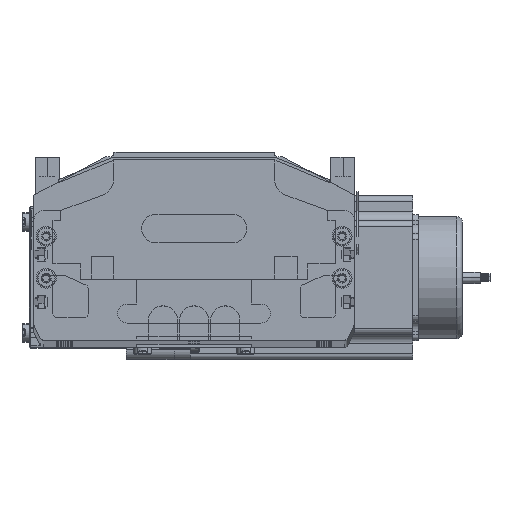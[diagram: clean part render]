
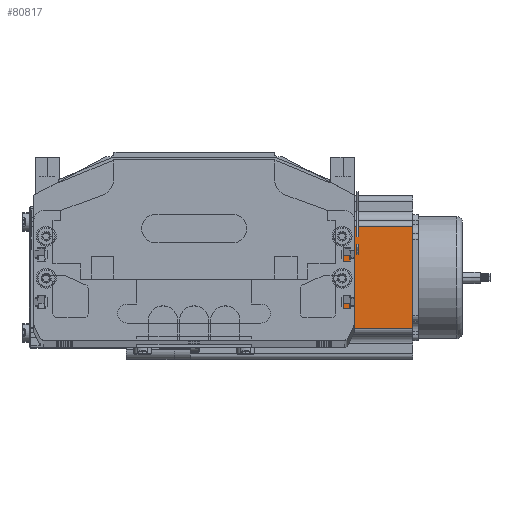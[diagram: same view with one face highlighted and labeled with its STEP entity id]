
A CAD part, top view. The second image highlights one B-rep face of the part: STEP entity #80817.
In plain terms, the highlighted planar face has unit normal (0, 0, 1) as drawn and (0, -1, 0) by its records, which use the part's own axes.
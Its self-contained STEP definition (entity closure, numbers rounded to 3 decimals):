
#73033 = DIRECTION ( 'NONE',  ( 1., 0., 0. ) ) ;
#73035 = VECTOR ( 'NONE', #73033, 1000. ) ;
#73116 = CARTESIAN_POINT ( 'NONE',  ( 0., 0., 0. ) ) ;
#73118 = LINE ( 'NONE', #73116, #73035 ) ;
#80282 = EDGE_CURVE ( 'NONE', #80709, #80710, #73118, .T. ) ;
#80511 = EDGE_LOOP ( 'NONE', ( #80819, #80821, #80626, #80688 ) ) ;
#80626 = ORIENTED_EDGE ( 'NONE', *, *, #80816, .F. ) ;
#80627 = EDGE_CURVE ( 'NONE', #80818, #80709, #86711, .T. ) ;
#80688 = ORIENTED_EDGE ( 'NONE', *, *, #80627, .T. ) ;
#80709 = VERTEX_POINT ( 'NONE', #86854 ) ;
#80710 = VERTEX_POINT ( 'NONE', #86969 ) ;
#80800 = VERTEX_POINT ( 'NONE', #87218 ) ;
#80816 = EDGE_CURVE ( 'NONE', #80818, #80800, #87433, .T. ) ;
#80817 = ADVANCED_FACE ( 'NONE', ( #87439 ), #87391, .F. ) ;
#80818 = VERTEX_POINT ( 'NONE', #87438 ) ;
#80819 = ORIENTED_EDGE ( 'NONE', *, *, #80282, .T. ) ;
#80820 = EDGE_CURVE ( 'NONE', #80710, #80800, #87188, .T. ) ;
#80821 = ORIENTED_EDGE ( 'NONE', *, *, #80820, .T. ) ;
#86709 = DIRECTION ( 'NONE',  ( 0., 0., -1. ) ) ;
#86710 = CARTESIAN_POINT ( 'NONE',  ( 16.16, 0., 116.5 ) ) ;
#86711 = LINE ( 'NONE', #86710, #86789 ) ;
#86789 = VECTOR ( 'NONE', #86709, 1000. ) ;
#86854 = CARTESIAN_POINT ( 'NONE',  ( 16.16, 0., 0. ) ) ;
#86969 = CARTESIAN_POINT ( 'NONE',  ( 69.74, 0., 0. ) ) ;
#87186 = CARTESIAN_POINT ( 'NONE',  ( 69.74, 0., 116.5 ) ) ;
#87188 = LINE ( 'NONE', #87186, #87189 ) ;
#87189 = VECTOR ( 'NONE', #87314, 1000. ) ;
#87218 = CARTESIAN_POINT ( 'NONE',  ( 69.74, 0., 116.5 ) ) ;
#87314 = DIRECTION ( 'NONE',  ( 0., 0., 1. ) ) ;
#87346 = DIRECTION ( 'NONE',  ( 0., 0., 1. ) ) ;
#87347 = DIRECTION ( 'NONE',  ( 0., 1., 0. ) ) ;
#87382 = AXIS2_PLACEMENT_3D ( 'NONE', #87387, #87347, #87346 ) ;
#87383 = DIRECTION ( 'NONE',  ( 1., 0., 0. ) ) ;
#87384 = VECTOR ( 'NONE', #87383, 1000. ) ;
#87385 = CARTESIAN_POINT ( 'NONE',  ( 0., 0., 116.5 ) ) ;
#87387 = CARTESIAN_POINT ( 'NONE',  ( 0., 0., 116.5 ) ) ;
#87391 = PLANE ( 'NONE',  #87382 ) ;
#87433 = LINE ( 'NONE', #87385, #87384 ) ;
#87438 = CARTESIAN_POINT ( 'NONE',  ( 16.16, 0., 116.5 ) ) ;
#87439 = FACE_OUTER_BOUND ( 'NONE', #80511, .T. ) ;
